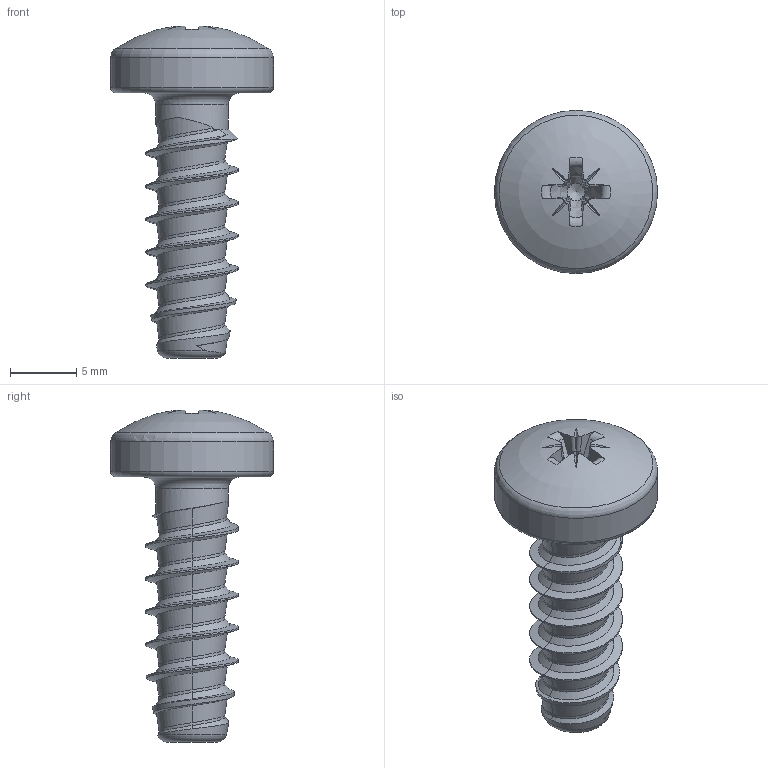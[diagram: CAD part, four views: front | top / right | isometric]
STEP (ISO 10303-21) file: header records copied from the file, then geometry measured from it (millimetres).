
FILE_DESCRIPTION(/* description */ (''),/* implementation_level */ '2;1');
FILE_NAME(/* name */ 'KN6032-STSplus-70x20-Z3.step',/* time_stamp */ '2017-10-10T16:31:01+02:00',/* author */ (''),/* organization */ (''),/* preprocessor_version */ 'ST-DEVELOPER v16',/* originating_system */ 'SIEMENS PLM Software NX 10.0',/* authorisation */ '');
FILE_SCHEMA (('AUTOMOTIVE_DESIGN { 1 0 10303 214 3 1 1 1 }'));
Length unit declared in the file: millimetre
Products named in the file (1): KN6032-STSplus-70x20-Z3
Bounding box: 12.3 x 12.3 x 25.04 mm (x, y, z)
Volume: 937.9 mm3; surface area: 849.8 mm2
Topology: 1 solids, 1 shells, 108 faces, 264 edges, 158 vertices
Faces by surface type: plane 42, bspline 39, cylinder 11, torus 8, cone 7, sphere 1
Full cylindrical faces by diameter (mm): 5.48 x1, 12.3 x1
Entity records: 5553 total; most frequent: CARTESIAN_POINT 3357, ORIENTED_EDGE 500, DIRECTION 345, EDGE_CURVE 250, VERTEX_POINT 153, AXIS2_PLACEMENT_3D 125, EDGE_LOOP 116, ADVANCED_FACE 108
